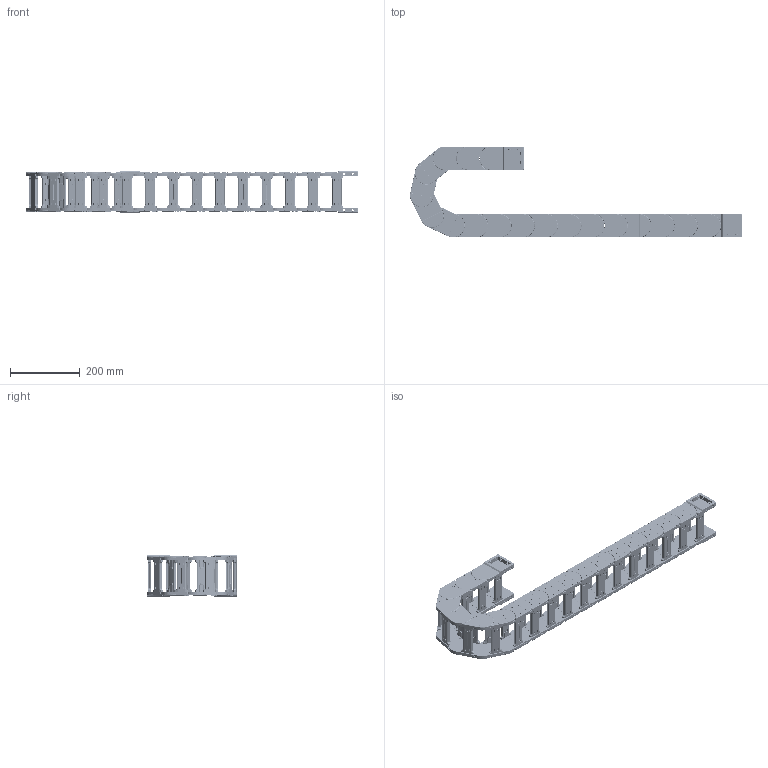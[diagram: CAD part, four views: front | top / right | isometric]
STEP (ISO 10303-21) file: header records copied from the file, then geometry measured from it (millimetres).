
FILE_DESCRIPTION (( 'STEP AP214' ), '1' );
FILE_NAME ('J45Q.1.90S-3D賦凳芞.STEP', '2019-01-10T00:08:08', ( 'Sky123.Org' ), ( 'Sky123.Org' ), 'SwSTEP 2.0', 'SolidWorks 2017', '' );
FILE_SCHEMA (( 'AUTOMOTIVE_DESIGN' ));
Length unit declared in the file: millimetre
Products named in the file (10): 45-崝Ч翋极1-R250; J45Q.1.90S-3D賦凳芞; 5-N45X75-源諉俋; 45-N源諉芛俋; 5-N45X75-源諉囀; 45-臏簽1; 45-N源諉芛囀; 5-N45X100-1; J45.1結え; 45-崝Ч翋极2
Assembly tree (55 placements, depth 3):
  J45Q.1.90S-3D賦凳芞
    5-N45X100-1  x17
      45-崝Ч翋极1-R250
      45-崝Ч翋极2
      J45.1結え
    5-N45X75-源諉囀
      45-N源諉芛囀  x2
      J45.1結え  x2
      45-臏簽1  x12
    5-N45X75-源諉俋
      45-N源諉芛俋  x2
      J45.1結え  x2
      45-臏簽1  x12
Bounding box: 954.91 x 261 x 119 mm (x, y, z)
Volume: 2598170.9 mm3; surface area: 1151575.4 mm2
Topology: 100 solids, 100 shells, 20080 faces, 51658 edges, 31520 vertices
Faces by surface type: plane 7348, cylinder 6440, bspline 3788, torus 1508, sphere 768, cone 228
Entity records: 33152 total; most frequent: CARTESIAN_POINT 10875, ORIENTED_EDGE 4608, DIRECTION 4494, EDGE_CURVE 2304, AXIS2_PLACEMENT_3D 1615, VERTEX_POINT 1438, VECTOR 1264, LINE 1264
